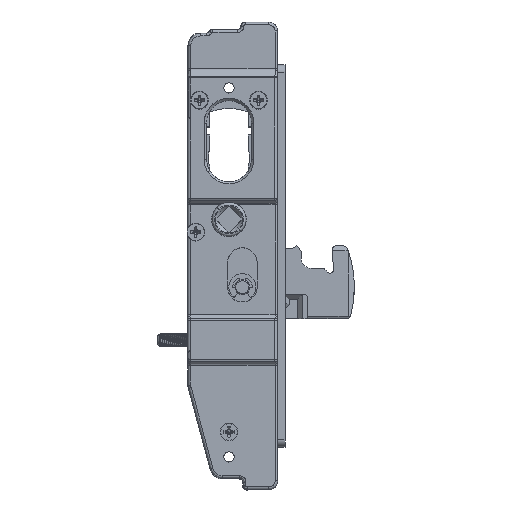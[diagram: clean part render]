
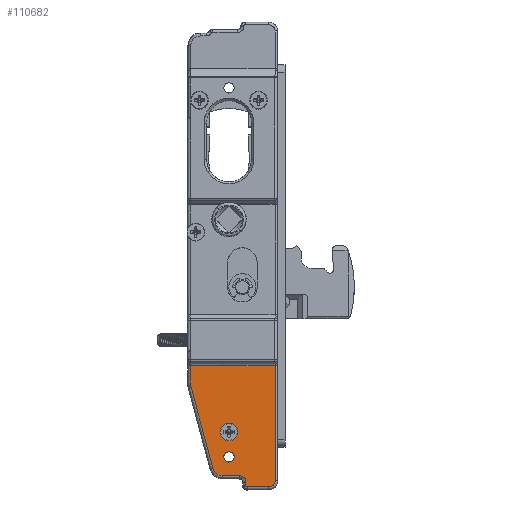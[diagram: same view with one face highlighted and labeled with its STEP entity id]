
A CAD part, top view. The second image highlights one B-rep face of the part: STEP entity #110682.
In plain terms, the highlighted planar face has unit normal (0, 0, 1) as drawn and (0, 1, 0) by its records, which use the part's own axes.
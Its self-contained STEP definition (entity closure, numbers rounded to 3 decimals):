
#101454=CARTESIAN_POINT('',(122.35,4.5,0.));
#101455=DIRECTION('',(0.,1.,0.));
#101456=DIRECTION('',(1.,0.,0.));
#101457=AXIS2_PLACEMENT_3D('',#101454,#101455,#101456);
#101459=CARTESIAN_POINT('',(122.35,4.5,0.));
#101460=DIRECTION('',(0.,1.,0.));
#101461=DIRECTION('',(-1.,0.,0.));
#101462=AXIS2_PLACEMENT_3D('',#101459,#101460,#101461);
#101464=CARTESIAN_POINT('',(132.5,4.5,0.));
#101465=DIRECTION('',(0.,-1.,0.));
#101466=DIRECTION('',(1.,0.,0.));
#101467=AXIS2_PLACEMENT_3D('',#101464,#101465,#101466);
#101469=CARTESIAN_POINT('',(132.5,4.5,0.));
#101470=DIRECTION('',(0.,-1.,0.));
#101471=DIRECTION('',(-1.,0.,0.));
#101472=AXIS2_PLACEMENT_3D('',#101469,#101470,#101471);
#101607=DIRECTION('',(-1.,0.,0.));
#101608=VECTOR('',#101607,7.899);
#101609=CARTESIAN_POINT('',(103.313,4.5,15.489));
#101610=LINE('',#101609,#101608);
#101611=DIRECTION('',(0.,0.,
-1.));
#101612=VECTOR('',#101611,34.228);
#101613=CARTESIAN_POINT('',(95.415,4.5,
15.489));
#101614=LINE('',#101613,#101612);
#101615=DIRECTION('',(1.,0.,0.));
#101616=VECTOR('',#101615,46.825);
#101617=CARTESIAN_POINT('',(95.414,4.5,
-18.739));
#101618=LINE('',#101617,#101616);
#101619=CARTESIAN_POINT('',(142.239,4.5,
-18.739));
#101620=CARTESIAN_POINT('',(142.429,4.5,
-18.739));
#101621=CARTESIAN_POINT('',(142.798,4.5,
-18.697));
#101622=CARTESIAN_POINT('',(143.333,4.5,
-18.511));
#101623=CARTESIAN_POINT('',(143.81,4.5,
-18.21));
#101624=CARTESIAN_POINT('',(144.21,4.5,
-17.81));
#101625=CARTESIAN_POINT('',(144.511,4.5,
-17.333));
#101626=CARTESIAN_POINT('',(144.697,4.5,
-16.797));
#101627=CARTESIAN_POINT('',(144.739,4.5,
-16.429));
#101628=CARTESIAN_POINT('',(144.739,4.5,
-16.239));
#101630=DIRECTION('',(0.,0.,1.));
#101631=VECTOR('',#101630,8.878);
#101632=CARTESIAN_POINT('',(144.739,4.5,
-16.239));
#101633=LINE('',#101632,#101631);
#101634=CARTESIAN_POINT('',(144.739,4.5,
-7.361));
#101635=CARTESIAN_POINT('',(144.739,4.5,
-7.307));
#101636=CARTESIAN_POINT('',(144.722,4.5,
-7.205));
#101637=CARTESIAN_POINT('',(144.65,4.5,
-7.062));
#101638=CARTESIAN_POINT('',(144.538,4.5,
-6.95));
#101639=CARTESIAN_POINT('',(144.395,4.5,
-6.878));
#101640=CARTESIAN_POINT('',(144.293,4.5,
-6.861));
#101641=CARTESIAN_POINT('',(144.239,4.5,
-6.861));
#101643=DIRECTION('',(-1.,0.,0.));
#101644=VECTOR('',#101643,1.5);
#101645=CARTESIAN_POINT('',(144.239,4.5,
-6.861));
#101646=LINE('',#101645,#101644);
#101647=CARTESIAN_POINT('',(142.738,4.5,
-6.861));
#101648=CARTESIAN_POINT('',(142.515,4.5,
-6.861));
#101649=CARTESIAN_POINT('',(142.084,4.5,
-6.803));
#101650=CARTESIAN_POINT('',(141.473,4.5,
-6.551));
#101651=CARTESIAN_POINT('',(140.951,4.5,-6.149));
#101652=CARTESIAN_POINT('',(140.549,4.5,
-5.627));
#101653=CARTESIAN_POINT('',(140.297,4.5,
-5.016));
#101654=CARTESIAN_POINT('',(140.239,4.5,
-4.586));
#101655=CARTESIAN_POINT('',(140.239,4.5,
-4.362));
#101657=DIRECTION('',(0.,0.,1.));
#101658=VECTOR('',#101657,7.028);
#101659=CARTESIAN_POINT('',(140.239,4.5,
-4.362));
#101660=LINE('',#101659,#101658);
#101661=CARTESIAN_POINT('',(140.239,4.5,
2.667));
#101662=CARTESIAN_POINT('',(140.239,4.5,
2.962));
#101663=CARTESIAN_POINT('',(140.175,4.5,
3.536));
#101664=CARTESIAN_POINT('',(139.893,4.5,
4.37));
#101665=CARTESIAN_POINT('',(139.437,4.5,
5.121));
#101666=CARTESIAN_POINT('',(138.83,4.5,
5.756));
#101667=CARTESIAN_POINT('',(138.097,4.5,
6.244));
#101668=CARTESIAN_POINT('',(137.559,4.5,
6.454));
#101669=CARTESIAN_POINT('',(137.274,4.5,
6.53));
#101671=DIRECTION('',(-0.966,0.,0.259));
#101672=VECTOR('',#101671,34.088);
#101673=CARTESIAN_POINT('',(137.274,4.5,
6.53));
#101674=LINE('',#101673,#101672);
#101675=CARTESIAN_POINT('',(104.348,4.5,15.352));
#101676=CARTESIAN_POINT('',(104.281,4.5,15.371));
#101677=CARTESIAN_POINT('',(104.145,4.5,15.403));
#101678=CARTESIAN_POINT('',(103.939,4.5,15.441));
#101679=CARTESIAN_POINT('',(103.732,4.5,15.469));
#101680=CARTESIAN_POINT('',(103.523,4.5,15.485));
#101681=CARTESIAN_POINT('',(103.383,4.5,15.489));
#101682=CARTESIAN_POINT('',(103.313,4.5,15.489));
#103973=CARTESIAN_POINT('',(95.415,4.5,
15.489));
#108372=CARTESIAN_POINT('',(125.959,4.5,0.));
#108373=CARTESIAN_POINT('',(118.741,4.5,0.));
#108374=VERTEX_POINT('',#108372);
#108375=VERTEX_POINT('',#108373);
#108396=CARTESIAN_POINT('',(134.6,4.5,0.));
#108397=CARTESIAN_POINT('',(130.4,4.5,0.));
#108398=VERTEX_POINT('',#108396);
#108399=VERTEX_POINT('',#108397);
#108833=VERTEX_POINT('',#103973);
#108834=CARTESIAN_POINT('',(103.313,4.5,15.489));
#108835=VERTEX_POINT('',#108834);
#108836=VERTEX_POINT('',#101675);
#108837=CARTESIAN_POINT('',(137.274,4.5,
6.53));
#108838=VERTEX_POINT('',#108837);
#108839=VERTEX_POINT('',#101661);
#108840=CARTESIAN_POINT('',(140.239,4.5,
-4.362));
#108841=VERTEX_POINT('',#108840);
#108842=VERTEX_POINT('',#101647);
#108843=CARTESIAN_POINT('',(144.239,4.5,
-6.861));
#108844=VERTEX_POINT('',#108843);
#108845=VERTEX_POINT('',#101634);
#108846=CARTESIAN_POINT('',(144.739,4.5,
-16.239));
#108847=VERTEX_POINT('',#108846);
#108848=VERTEX_POINT('',#101619);
#108851=CARTESIAN_POINT('',(95.414,4.5,
-18.739));
#108852=VERTEX_POINT('',#108851);
#110639=CARTESIAN_POINT('',(0.,4.5,0.));
#110640=DIRECTION('',(0.,1.,0.));
#110641=DIRECTION('',(1.,0.,0.));
#110642=AXIS2_PLACEMENT_3D('',#110639,#110640,#110641);
#110643=PLANE('',#110642);
#110645=ORIENTED_EDGE('',*,*,#110644,.T.);
#110647=ORIENTED_EDGE('',*,*,#110646,.T.);
#110649=ORIENTED_EDGE('',*,*,#110648,.T.);
#110651=ORIENTED_EDGE('',*,*,#110650,.T.);
#110653=ORIENTED_EDGE('',*,*,#110652,.T.);
#110655=ORIENTED_EDGE('',*,*,#110654,.T.);
#110657=ORIENTED_EDGE('',*,*,#110656,.T.);
#110659=ORIENTED_EDGE('',*,*,#110658,.T.);
#110661=ORIENTED_EDGE('',*,*,#110660,.T.);
#110663=ORIENTED_EDGE('',*,*,#110662,.T.);
#110665=ORIENTED_EDGE('',*,*,#110664,.T.);
#110667=ORIENTED_EDGE('',*,*,#110666,.T.);
#110668=EDGE_LOOP('',(#110645,#110647,#110649,#110651,#110653,#110655,#110657,
#110659,#110661,#110663,#110665,#110667));
#110669=FACE_OUTER_BOUND('',#110668,.F.);
#110671=ORIENTED_EDGE('',*,*,#110670,.T.);
#110673=ORIENTED_EDGE('',*,*,#110672,.T.);
#110674=EDGE_LOOP('',(#110671,#110673));
#110675=FACE_BOUND('',#110674,.F.);
#110677=ORIENTED_EDGE('',*,*,#110676,.F.);
#110679=ORIENTED_EDGE('',*,*,#110678,.F.);
#110680=EDGE_LOOP('',(#110677,#110679));
#110681=FACE_BOUND('',#110680,.F.);
#110682=ADVANCED_FACE('',(#110669,#110675,#110681),#110643,.T.);
#101458=CIRCLE('',#101457,3.609);
#101463=CIRCLE('',#101462,3.609);
#101468=CIRCLE('',#101467,2.1);
#101473=CIRCLE('',#101472,2.1);
#101629=B_SPLINE_CURVE_WITH_KNOTS('',3,(#101619,#101620,#101621,#101622,#101623,
#101624,#101625,#101626,#101627,#101628),.UNSPECIFIED.,.F.,.F.,(4,1,1,1,1,1,1,
4),(0.,0.143,0.286,0.429,
0.571,0.714,0.857,1.),.UNSPECIFIED.);
#101642=B_SPLINE_CURVE_WITH_KNOTS('',3,(#101634,#101635,#101636,#101637,#101638,
#101639,#101640,#101641),.UNSPECIFIED.,.F.,.F.,(4,1,1,1,1,4),(0.,0.2,0.4,
0.6,0.8,1.),.UNSPECIFIED.);
#101656=B_SPLINE_CURVE_WITH_KNOTS('',3,(#101647,#101648,#101649,#101650,#101651,
#101652,#101653,#101654,#101655),.UNSPECIFIED.,.F.,.F.,(4,1,1,1,1,1,4),(0.,
0.167,0.333,0.5,0.667,0.833,
1.),.UNSPECIFIED.);
#101670=B_SPLINE_CURVE_WITH_KNOTS('',3,(#101661,#101662,#101663,#101664,#101665,
#101666,#101667,#101668,#101669),.UNSPECIFIED.,.F.,.F.,(4,1,1,1,1,1,4),(0.,
0.167,0.333,0.5,0.667,0.833,
1.),.UNSPECIFIED.);
#101683=B_SPLINE_CURVE_WITH_KNOTS('',3,(#101675,#101676,#101677,#101678,#101679,
#101680,#101681,#101682),.UNSPECIFIED.,.F.,.F.,(4,1,1,1,1,4),(0.,0.2,0.4,
0.6,0.8,1.),.UNSPECIFIED.);
#110644=EDGE_CURVE('',#108835,#108833,#101610,.T.);
#110646=EDGE_CURVE('',#108833,#108852,#101614,.T.);
#110648=EDGE_CURVE('',#108852,#108848,#101618,.T.);
#110650=EDGE_CURVE('',#108848,#108847,#101629,.T.);
#110652=EDGE_CURVE('',#108847,#108845,#101633,.T.);
#110654=EDGE_CURVE('',#108845,#108844,#101642,.T.);
#110656=EDGE_CURVE('',#108844,#108842,#101646,.T.);
#110658=EDGE_CURVE('',#108842,#108841,#101656,.T.);
#110660=EDGE_CURVE('',#108841,#108839,#101660,.T.);
#110662=EDGE_CURVE('',#108839,#108838,#101670,.T.);
#110664=EDGE_CURVE('',#108838,#108836,#101674,.T.);
#110666=EDGE_CURVE('',#108836,#108835,#101683,.T.);
#110670=EDGE_CURVE('',#108374,#108375,#101458,.T.);
#110672=EDGE_CURVE('',#108375,#108374,#101463,.T.);
#110676=EDGE_CURVE('',#108398,#108399,#101468,.T.);
#110678=EDGE_CURVE('',#108399,#108398,#101473,.T.);
